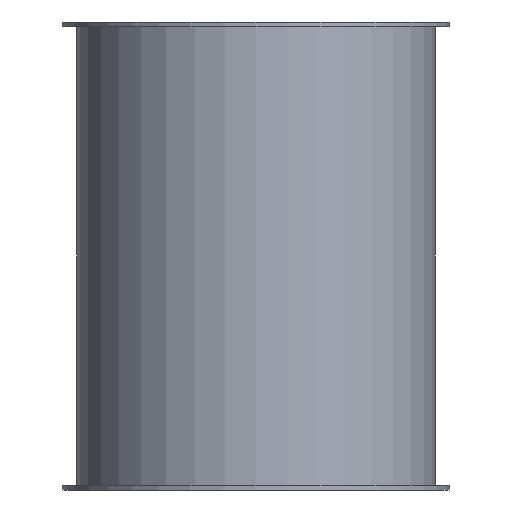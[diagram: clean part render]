
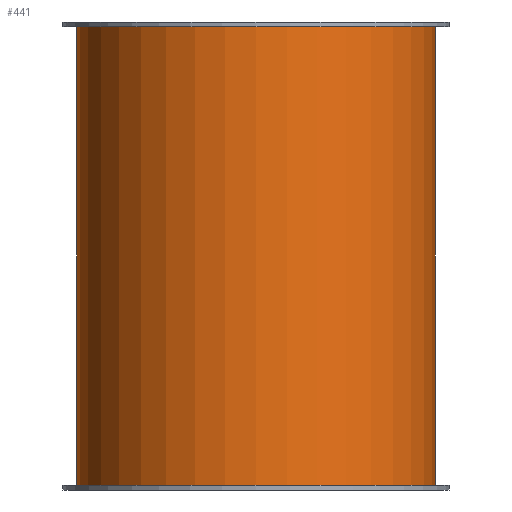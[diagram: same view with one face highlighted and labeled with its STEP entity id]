
A CAD part, front view. The second image highlights one B-rep face of the part: STEP entity #441.
In plain terms, the highlighted cylindrical face has radius 76.5 mm (diameter 153 mm), a full revolution.
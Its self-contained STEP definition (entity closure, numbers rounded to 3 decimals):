
#152=CARTESIAN_POINT('',(76.5,0.,198.0));
#153=VERTEX_POINT('',#152);
#154=CARTESIAN_POINT('',(0.0,0.0,198.0));
#155=DIRECTION('',(0.0,0.0,-1.0));
#156=DIRECTION('',(-1.0,0.0,0.0));
#157=AXIS2_PLACEMENT_3D('',#154,#155,#156);
#158=CIRCLE('',#157,76.5);
#159=EDGE_CURVE('',#153,#153,#158,.T.);
#200=CARTESIAN_POINT('',(-76.5,0.,2.0));
#201=VERTEX_POINT('',#200);
#202=CARTESIAN_POINT('',(0.0,0.0,2.0));
#203=DIRECTION('',(0.0,0.0,1.0));
#204=DIRECTION('',(-1.0,0.0,0.0));
#205=AXIS2_PLACEMENT_3D('',#202,#203,#204);
#206=CIRCLE('',#205,76.5);
#207=EDGE_CURVE('',#201,#201,#206,.T.);
#341=CARTESIAN_POINT('',(-61.5,45.497,100.0));
#342=VERTEX_POINT('',#341);
#343=CARTESIAN_POINT('',(-61.5,45.497,100.0));
#344=CARTESIAN_POINT('',(-61.5,45.497,95.789));
#345=CARTESIAN_POINT('',(-61.065,46.099,91.618));
#346=CARTESIAN_POINT('',(-59.401,48.225,83.544));
#347=CARTESIAN_POINT('',(-58.171,49.738,79.638));
#348=CARTESIAN_POINT('',(-55.016,53.207,72.22));
#349=CARTESIAN_POINT('',(-53.088,55.161,68.704));
#350=CARTESIAN_POINT('',(-48.662,59.102,62.187));
#351=CARTESIAN_POINT('',(-46.162,61.089,59.188));
#352=CARTESIAN_POINT('',(-40.898,64.727,53.923));
#353=CARTESIAN_POINT('',(-37.95,66.523,51.445));
#354=CARTESIAN_POINT('',(-31.446,69.834,47.001));
#355=CARTESIAN_POINT('',(-27.888,71.346,45.034));
#356=CARTESIAN_POINT('',(-20.353,73.85,41.821));
#357=CARTESIAN_POINT('',(-16.367,74.842,40.573));
#358=CARTESIAN_POINT('',(-8.229,76.168,38.912));
#359=CARTESIAN_POINT('',(-4.076,76.5,38.5));
#360=CARTESIAN_POINT('',(4.076,76.5,38.5));
#361=CARTESIAN_POINT('',(8.229,76.168,38.912));
#362=CARTESIAN_POINT('',(16.367,74.842,40.573));
#363=CARTESIAN_POINT('',(20.353,73.85,41.821));
#364=CARTESIAN_POINT('',(27.888,71.346,45.034));
#365=CARTESIAN_POINT('',(31.446,69.834,47.001));
#366=CARTESIAN_POINT('',(37.95,66.523,51.445));
#367=CARTESIAN_POINT('',(40.898,64.727,53.923));
#368=CARTESIAN_POINT('',(46.162,61.089,59.188));
#369=CARTESIAN_POINT('',(48.662,59.102,62.187));
#370=CARTESIAN_POINT('',(53.088,55.161,68.704));
#371=CARTESIAN_POINT('',(55.016,53.207,72.22));
#372=CARTESIAN_POINT('',(58.171,49.738,79.638));
#373=CARTESIAN_POINT('',(59.401,48.225,83.544));
#374=CARTESIAN_POINT('',(61.065,46.099,91.618));
#375=CARTESIAN_POINT('',(61.5,45.497,95.789));
#376=CARTESIAN_POINT('',(61.5,45.497,104.211));
#377=CARTESIAN_POINT('',(61.065,46.099,108.382));
#378=CARTESIAN_POINT('',(59.401,48.225,116.456));
#379=CARTESIAN_POINT('',(58.171,49.738,120.362));
#380=CARTESIAN_POINT('',(55.016,53.207,127.78));
#381=CARTESIAN_POINT('',(53.088,55.161,131.296));
#382=CARTESIAN_POINT('',(48.662,59.102,137.813));
#383=CARTESIAN_POINT('',(46.162,61.089,140.812));
#384=CARTESIAN_POINT('',(40.898,64.727,146.077));
#385=CARTESIAN_POINT('',(37.95,66.523,148.555));
#386=CARTESIAN_POINT('',(31.446,69.834,152.999));
#387=CARTESIAN_POINT('',(27.888,71.346,154.966));
#388=CARTESIAN_POINT('',(20.353,73.85,158.179));
#389=CARTESIAN_POINT('',(16.367,74.842,159.427));
#390=CARTESIAN_POINT('',(8.229,76.168,161.088));
#391=CARTESIAN_POINT('',(4.076,76.5,161.5));
#392=CARTESIAN_POINT('',(-4.076,76.5,161.5));
#393=CARTESIAN_POINT('',(-8.229,76.168,161.088));
#394=CARTESIAN_POINT('',(-16.367,74.842,159.427));
#395=CARTESIAN_POINT('',(-20.353,73.85,158.179));
#396=CARTESIAN_POINT('',(-27.888,71.346,154.966));
#397=CARTESIAN_POINT('',(-31.446,69.834,152.999));
#398=CARTESIAN_POINT('',(-37.95,66.523,148.555));
#399=CARTESIAN_POINT('',(-40.898,64.727,146.077));
#400=CARTESIAN_POINT('',(-46.162,61.089,140.812));
#401=CARTESIAN_POINT('',(-48.662,59.102,137.813));
#402=CARTESIAN_POINT('',(-53.088,55.161,131.296));
#403=CARTESIAN_POINT('',(-55.016,53.207,127.78));
#404=CARTESIAN_POINT('',(-58.171,49.738,120.362));
#405=CARTESIAN_POINT('',(-59.401,48.225,116.456));
#406=CARTESIAN_POINT('',(-61.065,46.099,108.382));
#407=CARTESIAN_POINT('',(-61.5,45.497,104.211));
#408=CARTESIAN_POINT('',(-61.5,45.497,100.));
#409=B_SPLINE_CURVE_WITH_KNOTS('',3,(#343,#344,#345,#346,#347,#348,#349,#350,#351,#352,#353,#354,#355,#356,#357,#358,#359,#360,#361,#362,#363,#364,#365,#366,#367,#368,#369,#370,#371,#372,#373,#374,#375,#376,#377,#378,#379,#380,#381,#382,#383,#384,#385,#386,#387,#388,#389,#390,#391,#392,#393,#394,#395,#396,#397,#398,#399,#400,#401,#402,#403,#404,#405,#406,#407,#408),.UNSPECIFIED.,.T.,.U.,(4,2,2,2,2,2,2,2,2,2,2,2,2,2,2,2,2,2,2,2,2,2,2,2,2,2,2,2,2,2,2,2,4),(0.0,1.263,2.527,3.79,5.053,6.276,7.499,8.721,9.944,11.167,12.39,13.612,14.835,16.098,17.362,18.625,19.888,21.151,22.415,23.678,24.941,26.164,27.387,28.609,29.832,31.055,32.278,33.5,34.723,35.986,37.25,38.513,39.776),.UNSPECIFIED.);
#410=EDGE_CURVE('',#342,#342,#409,.T.);
#427=CARTESIAN_POINT('',(0.0,0.0,0.0));
#428=DIRECTION('',(0.0,0.0,1.0));
#429=DIRECTION('',(-1.0,0.0,0.0));
#430=AXIS2_PLACEMENT_3D('',#427,#428,#429);
#431=CYLINDRICAL_SURFACE('',#430,76.5);
#432=ORIENTED_EDGE('',*,*,#159,.T.);
#433=EDGE_LOOP('',(#432));
#434=FACE_OUTER_BOUND('',#433,.T.);
#435=ORIENTED_EDGE('',*,*,#207,.T.);
#436=EDGE_LOOP('',(#435));
#437=FACE_BOUND('',#436,.T.);
#438=ORIENTED_EDGE('',*,*,#410,.T.);
#439=EDGE_LOOP('',(#438));
#440=FACE_BOUND('',#439,.T.);
#441=ADVANCED_FACE('',(#434,#437,#440),#431,.T.);
